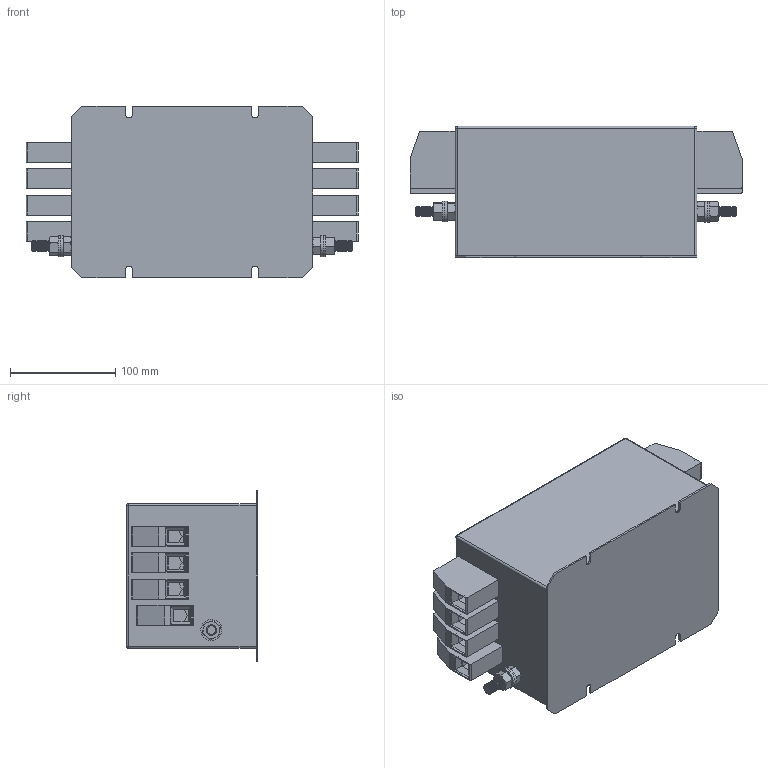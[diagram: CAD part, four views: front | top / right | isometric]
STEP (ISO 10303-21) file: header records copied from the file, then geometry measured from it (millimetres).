
FILE_DESCRIPTION (( 'STEP AP203' ), '1' );
FILE_NAME ('NF-4-80-FTR.STEP', '2018-02-12T14:14:36', ( '' ), ( '' ), 'SwSTEP 2.0', 'SolidWorks 2017', '' );
FILE_SCHEMA (( 'CONFIG_CONTROL_DESIGN' ));
Length unit declared in the file: millimetre
Products named in the file (7): M10x30 Earth post; hex screw_am_B18.6.7M - M10 x 1.5 x 30 Indented HHMS --30S; HDFK-50; FTR-80; hex nut style 1_am_B18.2.4.1M - Hex nut, Style 1,  M10 x 1.5, with 16mm WAF --D-N; flat washer narrow_am_B18.22M - Plain washer, 10 mm, narrow; NF-4-80-FTR
Assembly tree (15 placements, depth 3):
  NF-4-80-FTR
    FTR-80
    M10x30 Earth post  x2
      flat washer narrow_am_B18.22M - Plain washer, 10 mm, narrow
      hex nut style 1_am_B18.2.4.1M - Hex nut, Style 1,  M10 x 1.5, with 16mm WAF --D-N
      hex screw_am_B18.6.7M - M10 x 1.5 x 30 Indented HHMS --30S
    HDFK-50  x8
Bounding box: 316.01 x 125 x 163 mm (x, y, z)
Volume: 4066786.7 mm3; surface area: 392539.2 mm2
Topology: 18 solids, 18 shells, 896 faces, 2180 edges, 1384 vertices
Faces by surface type: plane 480, cylinder 212, cone 200, sphere 4
Entity records: 9949 total; most frequent: CARTESIAN_POINT 1713, DIRECTION 1616, ORIENTED_EDGE 1468, EDGE_CURVE 734, AXIS2_PLACEMENT_3D 605, VERTEX_POINT 462, LINE 406, VECTOR 406
